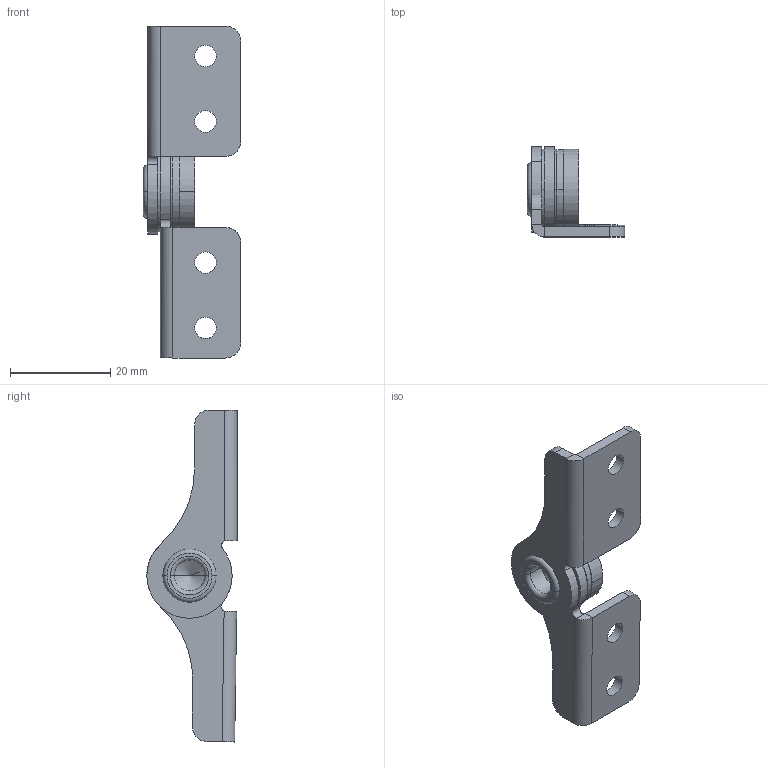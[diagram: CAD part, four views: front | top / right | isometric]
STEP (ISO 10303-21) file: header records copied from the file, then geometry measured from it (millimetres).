
FILE_DESCRIPTION (( 'STEP AP203' ), '1' );
FILE_NAME ('HG-TA20L(-TA30L)_0.step', '2012-05-14T02:40:15', ( ' ' ), ( '' ), 'SwSTEP 2.0', 'SolidWorks 2011', '' );
FILE_SCHEMA (( 'CONFIG_CONTROL_DESIGN' ));
Length unit declared in the file: millimetre
Products named in the file (6): HG-TA20L(-TA30L)_0; SC170-00983_bracket_B-L(20・30); SC170-00985_springW-20; SC170-00981_F_plate20; SC170-00984_shaft_TA20; SC170-00982_bracket_A-L(20・30)
Assembly tree (6 placements, depth 2):
  HG-TA20L(-TA30L)_0
    SC170-00983_bracket_B-L(20・30)
    SC170-00982_bracket_A-L(20・30)
    SC170-00985_springW-20
    SC170-00981_F_plate20  x2
    SC170-00984_shaft_TA20
Bounding box: 19.4 x 18 x 66.14 mm (x, y, z)
Volume: 4234.2 mm3; surface area: 5731.8 mm2
Topology: 6 solids, 6 shells, 88 faces, 201 edges, 126 vertices
Faces by surface type: cylinder 49, plane 32, torus 4, cone 2, bspline 1
Entity records: 3070 total; most frequent: DIRECTION 462, CARTESIAN_POINT 449, ORIENTED_EDGE 374, EDGE_CURVE 187, AXIS2_PLACEMENT_3D 187, VERTEX_POINT 118, EDGE_LOOP 101, CIRCLE 97
